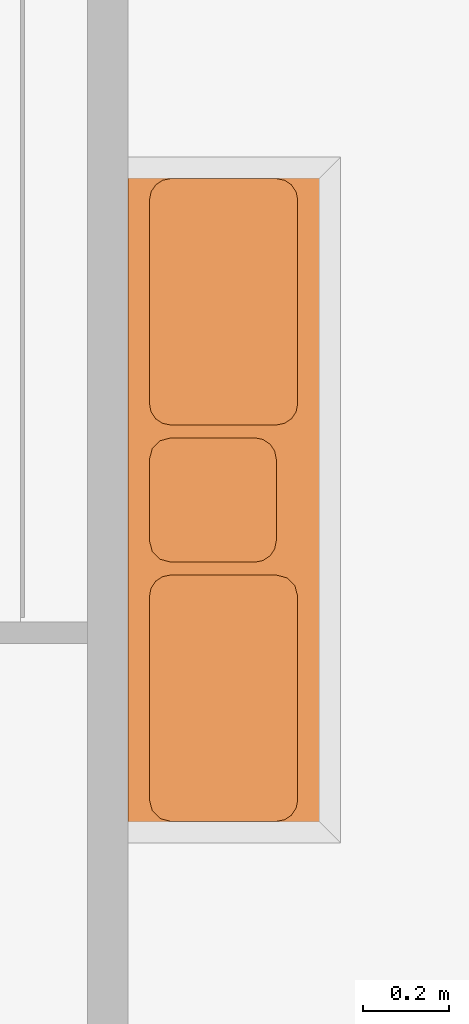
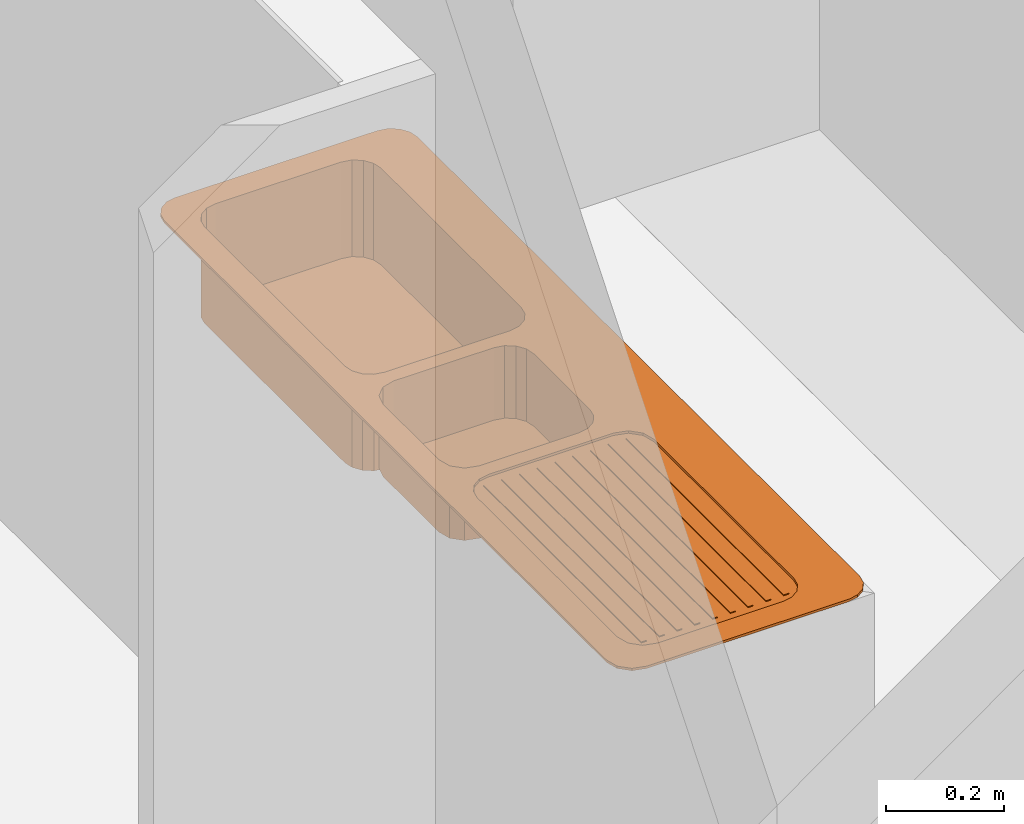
# One storey, part 14 of 14: 1 proxy.
"""IFC2X3 building model written with IfcOpenShell, lengths in millimetres."""

from ifc_helpers import new_model, entity, si_unit, converted_unit, direction, frame, origin_with_axes, place, context, project, spatial, open_shell, faceted_brep, surface_model, material, element, save


model = new_model("IFC2X3")

# Units and contexts
model_context = context("Model", 3, precision=1e-05, world=origin_with_axes(), true_north=direction((0.0, 1.0)))
ifc_project = project(units=[si_unit("LENGTHUNIT", "METRE", prefix="MILLI"), si_unit("AREAUNIT", "SQUARE_METRE"), si_unit("VOLUMEUNIT", "CUBIC_METRE"), converted_unit("PLANEANGLEUNIT", "DEGREE", entity("IfcPlaneAngleMeasure", 0.017453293), si_unit("PLANEANGLEUNIT", "RADIAN"), dimensions=[0, 0, 0, 0, 0, 0, 0]), si_unit("SOLIDANGLEUNIT", "STERADIAN"), si_unit("MASSUNIT", "GRAM"), si_unit("TIMEUNIT", "SECOND"), si_unit("THERMODYNAMICTEMPERATUREUNIT", "DEGREE_CELSIUS"), si_unit("LUMINOUSINTENSITYUNIT", "LUMEN")], contexts=[model_context])

# Site, building, storey
site_placement = place(None, origin_with_axes())
site = spatial("IfcSite", under=ifc_project, at=site_placement, Name="\x83T\x83C\x83g", CompositionType="ELEMENT")
building_placement = place(site_placement, origin_with_axes())
building = spatial("IfcBuilding", under=site, at=building_placement, Name="Daitec-Sample 201208", CompositionType="ELEMENT")
storey_placement = place(building_placement, frame((0.0, 0.0, 4000.0), z_axis=(0.0, 0.0, 1.0), x_axis=(1.0, 0.0, 0.0)))
storey = spatial("IfcBuildingStorey", under=building, at=storey_placement, Name="2F", CompositionType="ELEMENT", Elevation=4000.0)

# Proxy
ifc_material = material(Name="\x94w\x8ci")
proxy_placement = place(storey_placement, frame((23171.218, 22624.447, 0.0), z_axis=(0.0, 0.0, 1.0), x_axis=(0.0, -1.0, 0.0)))
element("IfcBuildingElementProxy", 1, at=proxy_placement, inside=storey, material=ifc_material, Name="O5", context=model_context, shape_type="SurfaceModel", body=[
    faceted_brep([(50.0, 0.0, 600.0), (1550.0, 0.0, 600.0), (1550.0, 0.0, 605.0), (50.0, 0.0, 605.0), (30.865828, 3.8060234, 600.0), (14.644661, 14.644661, 600.0), (3.8060234, 30.865828, 600.0), (0.0, 50.0, 600.0), (0.0, 446.05787, 600.0), (3.8060234, 465.19204, 600.0), (14.644661, 481.41321, 600.0), (30.865828, 492.25185, 600.0), (50.0, 496.05787, 600.0), (1550.0, 496.05787, 600.0), (1569.1342, 492.25185, 600.0), (1585.3553, 481.41321, 600.0), (1596.194, 465.19204, 600.0), (1600.0, 446.05787, 600.0), (1600.0, 50.0, 600.0), (1593.3013, 25.0, 600.0), (1575.0, 6.6987298, 600.0), (100.0, 50.0, 600.0), (575.0, 50.0, 600.0), (594.13417, 53.806023, 600.0), (610.35534, 64.644661, 600.0), (621.19398, 80.865828, 600.0), (625.0, 100.0, 600.0), (625.0, 346.05787, 600.0), (621.19398, 365.19204, 600.0), (610.35534, 381.41321, 600.0), (594.13417, 392.25185, 600.0), (575.0, 396.05787, 600.0), (100.0, 396.05787, 600.0), (80.865828, 392.25185, 600.0), (64.644661, 381.41321, 600.0), (53.806023, 365.19204, 600.0), (50.0, 346.05787, 600.0), (50.0, 100.0, 600.0), (53.806023, 80.865828, 600.0), (64.644661, 64.644661, 600.0), (80.865828, 53.806023, 600.0), (705.0, 50.0, 600.0), (895.0, 50.0, 600.0), (920.0, 56.69873, 600.0), (938.30127, 75.0, 600.0), (945.0, 100.0, 600.0), (945.0, 296.05787, 600.0), (941.19398, 315.19204, 600.0), (930.35534, 331.41321, 600.0), (914.13417, 342.25185, 600.0), (895.0, 346.05787, 600.0), (705.0, 346.05787, 600.0), (685.86583, 342.25185, 600.0), (669.64466, 331.41321, 600.0), (658.80602, 315.19204, 600.0), (655.0, 296.05787, 600.0), (655.0, 100.0, 600.0), (661.69873, 75.0, 600.0), (680.0, 56.69873, 600.0), (1025.0, 50.0, 600.0), (1500.0, 50.0, 600.0), (1525.0, 56.69873, 600.0), (1543.3013, 75.0, 600.0), (1550.0, 100.0, 600.0), (1550.0, 346.05787, 600.0), (1546.194, 365.19204, 600.0), (1535.3553, 381.41321, 600.0), (1519.1342, 392.25185, 600.0), (1500.0, 396.05787, 600.0), (1025.0, 396.05787, 600.0), (1000.0, 389.35914, 600.0), (981.69873, 371.05787, 600.0), (975.0, 346.05787, 600.0), (975.0, 100.0, 600.0), (978.80602, 80.865828, 600.0), (989.64466, 64.644661, 600.0), (1005.8658, 53.806023, 600.0), (1575.0, 6.6987298, 605.0), (1593.3013, 25.0, 605.0), (1600.0, 50.0, 605.0), (1600.0, 446.05787, 605.0), (1596.194, 465.19204, 605.0), (1585.3553, 481.41321, 605.0), (1569.1342, 492.25185, 605.0), (1550.0, 496.05787, 605.0), (50.0, 496.05787, 605.0), (30.865828, 492.25185, 605.0), (14.644661, 481.41321, 605.0), (3.8060234, 465.19204, 605.0), (0.0, 446.05787, 605.0), (0.0, 50.0, 605.0), (3.8060234, 30.865828, 605.0), (14.644661, 14.644661, 605.0), (30.865828, 3.8060234, 605.0), (100.0, 50.0, 605.0), (80.865828, 53.806023, 605.0), (64.644661, 64.644661, 605.0), (53.806023, 80.865828, 605.0), (50.0, 100.0, 605.0), (50.0, 346.05787, 605.0), (53.806023, 365.19204, 605.0), (64.644661, 381.41321, 605.0), (80.865828, 392.25185, 605.0), (100.0, 396.05787, 605.0), (575.0, 396.05787, 605.0), (594.13417, 392.25185, 605.0), (610.35534, 381.41321, 605.0), (621.19398, 365.19204, 605.0), (625.0, 346.05787, 605.0), (625.0, 100.0, 605.0), (621.19398, 80.865828, 605.0), (610.35534, 64.644661, 605.0), (594.13417, 53.806023, 605.0), (575.0, 50.0, 605.0), (705.0, 50.0, 605.0), (680.0, 56.69873, 605.0), (661.69873, 75.0, 605.0), (655.0, 100.0, 605.0), (655.0, 296.05787, 605.0), (658.80602, 315.19204, 605.0), (669.64466, 331.41321, 605.0), (685.86583, 342.25185, 605.0), (705.0, 346.05787, 605.0), (895.0, 346.05787, 605.0), (914.13417, 342.25185, 605.0), (930.35534, 331.41321, 605.0), (941.19398, 315.19204, 605.0), (945.0, 296.05787, 605.0), (945.0, 100.0, 605.0), (938.30127, 75.0, 605.0), (920.0, 56.69873, 605.0), (895.0, 50.0, 605.0), (1025.0, 50.0, 605.0), (1005.8658, 53.806023, 605.0), (989.64466, 64.644661, 605.0), (978.80602, 80.865828, 605.0), (975.0, 100.0, 605.0), (975.0, 346.05787, 605.0), (981.69873, 371.05787, 605.0), (1000.0, 389.35914, 605.0), (1025.0, 396.05787, 605.0), (1500.0, 396.05787, 605.0), (1519.1342, 392.25185, 605.0), (1535.3553, 381.41321, 605.0), (1546.194, 365.19204, 605.0), (1550.0, 346.05787, 605.0), (1550.0, 100.0, 605.0), (1543.3013, 75.0, 605.0), (1525.0, 56.69873, 605.0), (1500.0, 50.0, 605.0)], [[[0, 1, 2, 3]], [[0, 4, 5, 6, 7, 8, 9, 10, 11, 12, 13, 14, 15, 16, 17, 18, 19, 20, 1], [21, 22, 23, 24, 25, 26, 27, 28, 29, 30, 31, 32, 33, 34, 35, 36, 37, 38, 39, 40], [41, 42, 43, 44, 45, 46, 47, 48, 49, 50, 51, 52, 53, 54, 55, 56, 57, 58], [59, 60, 61, 62, 63, 64, 65, 66, 67, 68, 69, 70, 71, 72, 73, 74, 75, 76]], [[1, 20, 77, 2]], [[3, 2, 77, 78, 79, 80, 81, 82, 83, 84, 85, 86, 87, 88, 89, 90, 91, 92, 93], [94, 95, 96, 97, 98, 99, 100, 101, 102, 103, 104, 105, 106, 107, 108, 109, 110, 111, 112, 113], [114, 115, 116, 117, 118, 119, 120, 121, 122, 123, 124, 125, 126, 127, 128, 129, 130, 131], [132, 133, 134, 135, 136, 137, 138, 139, 140, 141, 142, 143, 144, 145, 146, 147, 148, 149]], [[4, 0, 3, 93]], [[5, 4, 93, 92]], [[6, 5, 92, 91]], [[7, 6, 91, 90]], [[8, 7, 90, 89]], [[9, 8, 89, 88]], [[10, 9, 88, 87]], [[11, 10, 87, 86]], [[12, 11, 86, 85]], [[13, 12, 85, 84]], [[14, 13, 84, 83]], [[15, 14, 83, 82]], [[16, 15, 82, 81]], [[17, 16, 81, 80]], [[18, 17, 80, 79]], [[19, 18, 79, 78]], [[20, 19, 78, 77]], [[22, 21, 94, 113]], [[23, 22, 113, 112]], [[24, 23, 112, 111]], [[25, 24, 111, 110]], [[26, 25, 110, 109]], [[27, 26, 109, 108]], [[28, 27, 108, 107]], [[29, 28, 107, 106]], [[30, 29, 106, 105]], [[31, 30, 105, 104]], [[32, 31, 104, 103]], [[33, 32, 103, 102]], [[34, 33, 102, 101]], [[35, 34, 101, 100]], [[36, 35, 100, 99]], [[37, 36, 99, 98]], [[38, 37, 98, 97]], [[39, 38, 97, 96]], [[40, 39, 96, 95]], [[21, 40, 95, 94]], [[42, 41, 114, 131]], [[43, 42, 131, 130]], [[44, 43, 130, 129]], [[45, 44, 129, 128]], [[46, 45, 128, 127]], [[47, 46, 127, 126]], [[48, 47, 126, 125]], [[49, 48, 125, 124]], [[50, 49, 124, 123]], [[51, 50, 123, 122]], [[52, 51, 122, 121]], [[53, 52, 121, 120]], [[54, 53, 120, 119]], [[55, 54, 119, 118]], [[56, 55, 118, 117]], [[57, 56, 117, 116]], [[58, 57, 116, 115]], [[41, 58, 115, 114]], [[60, 59, 132, 149]], [[61, 60, 149, 148]], [[62, 61, 148, 147]], [[63, 62, 147, 146]], [[64, 63, 146, 145]], [[65, 64, 145, 144]], [[66, 65, 144, 143]], [[67, 66, 143, 142]], [[68, 67, 142, 141]], [[69, 68, 141, 140]], [[70, 69, 140, 139]], [[71, 70, 139, 138]], [[72, 71, 138, 137]], [[73, 72, 137, 136]], [[74, 73, 136, 135]], [[75, 74, 135, 134]], [[76, 75, 134, 133]], [[59, 76, 133, 132]]]),
    faceted_brep([(1025.0, 50.0, 595.0), (1500.0, 50.0, 595.0), (1500.0, 50.0, 600.0), (1025.0, 50.0, 600.0), (1005.8658, 53.806023, 595.0), (989.64466, 64.644661, 595.0), (978.80602, 80.865828, 595.0), (975.0, 100.0, 595.0), (975.0, 346.05787, 595.0), (981.69873, 371.05787, 595.0), (1000.0, 389.35914, 595.0), (1025.0, 396.05787, 595.0), (1500.0, 396.05787, 595.0), (1519.1342, 392.25185, 595.0), (1535.3553, 381.41321, 595.0), (1546.194, 365.19204, 595.0), (1550.0, 346.05787, 595.0), (1550.0, 100.0, 595.0), (1543.3013, 75.0, 595.0), (1525.0, 56.69873, 595.0), (1525.0, 56.69873, 600.0), (1543.3013, 75.0, 600.0), (1550.0, 100.0, 600.0), (1550.0, 346.05787, 600.0), (1546.194, 365.19204, 600.0), (1535.3553, 381.41321, 600.0), (1519.1342, 392.25185, 600.0), (1500.0, 396.05787, 600.0), (1025.0, 396.05787, 600.0), (1000.0, 389.35914, 600.0), (981.69873, 371.05787, 600.0), (975.0, 346.05787, 600.0), (975.0, 100.0, 600.0), (978.80602, 80.865828, 600.0), (989.64466, 64.644661, 600.0), (1005.8658, 53.806023, 600.0)], [[[0, 1, 2, 3]], [[0, 4, 5, 6, 7, 8, 9, 10, 11, 12, 13, 14, 15, 16, 17, 18, 19, 1]], [[1, 19, 20, 2]], [[3, 2, 20, 21, 22, 23, 24, 25, 26, 27, 28, 29, 30, 31, 32, 33, 34, 35]], [[4, 0, 3, 35]], [[5, 4, 35, 34]], [[6, 5, 34, 33]], [[7, 6, 33, 32]], [[8, 7, 32, 31]], [[9, 8, 31, 30]], [[10, 9, 30, 29]], [[11, 10, 29, 28]], [[12, 11, 28, 27]], [[13, 12, 27, 26]], [[14, 13, 26, 25]], [[15, 14, 25, 24]], [[16, 15, 24, 23]], [[17, 16, 23, 22]], [[18, 17, 22, 21]], [[19, 18, 21, 20]]]),
    faceted_brep([(995.0, 80.0, 600.0), (1530.0, 80.0, 600.0), (1530.0, 80.0, 602.0), (995.0, 80.0, 602.0), (995.0, 90.0, 600.0), (1530.0, 90.0, 600.0), (1530.0, 90.0, 602.0), (995.0, 90.0, 602.0)], [[[0, 1, 2, 3]], [[0, 4, 5, 1]], [[1, 5, 6, 2]], [[3, 2, 6, 7]], [[4, 0, 3, 7]], [[5, 4, 7, 6]]]),
    faceted_brep([(995.0, 114.83034, 600.0), (1530.0, 114.83034, 600.0), (1530.0, 114.83034, 602.0), (995.0, 114.83034, 602.0), (995.0, 124.83034, 600.0), (1530.0, 124.83034, 600.0), (1530.0, 124.83034, 602.0), (995.0, 124.83034, 602.0)], [[[0, 1, 2, 3]], [[0, 4, 5, 1]], [[1, 5, 6, 2]], [[3, 2, 6, 7]], [[4, 0, 3, 7]], [[5, 4, 7, 6]]]),
    faceted_brep([(995.0, 149.66068, 600.0), (1530.0, 149.66068, 600.0), (1530.0, 149.66068, 602.0), (995.0, 149.66068, 602.0), (995.0, 159.66068, 600.0), (1530.0, 159.66068, 600.0), (1530.0, 159.66068, 602.0), (995.0, 159.66068, 602.0)], [[[0, 1, 2, 3]], [[0, 4, 5, 1]], [[1, 5, 6, 2]], [[3, 2, 6, 7]], [[4, 0, 3, 7]], [[5, 4, 7, 6]]]),
    faceted_brep([(995.0, 184.49101, 600.0), (1530.0, 184.49101, 600.0), (1530.0, 184.49101, 602.0), (995.0, 184.49101, 602.0), (995.0, 194.49101, 600.0), (1530.0, 194.49101, 600.0), (1530.0, 194.49101, 602.0), (995.0, 194.49101, 602.0)], [[[0, 1, 2, 3]], [[0, 4, 5, 1]], [[1, 5, 6, 2]], [[3, 2, 6, 7]], [[4, 0, 3, 7]], [[5, 4, 7, 6]]]),
    faceted_brep([(995.0, 219.32135, 600.0), (1530.0, 219.32135, 600.0), (1530.0, 219.32135, 602.0), (995.0, 219.32135, 602.0), (995.0, 229.32135, 600.0), (1530.0, 229.32135, 600.0), (1530.0, 229.32135, 602.0), (995.0, 229.32135, 602.0)], [[[0, 1, 2, 3]], [[0, 4, 5, 1]], [[1, 5, 6, 2]], [[3, 2, 6, 7]], [[4, 0, 3, 7]], [[5, 4, 7, 6]]]),
    faceted_brep([(995.0, 254.15169, 600.0), (1530.0, 254.15169, 600.0), (1530.0, 254.15169, 602.0), (995.0, 254.15169, 602.0), (995.0, 264.15169, 600.0), (1530.0, 264.15169, 600.0), (1530.0, 264.15169, 602.0), (995.0, 264.15169, 602.0)], [[[0, 1, 2, 3]], [[0, 4, 5, 1]], [[1, 5, 6, 2]], [[3, 2, 6, 7]], [[4, 0, 3, 7]], [[5, 4, 7, 6]]]),
    faceted_brep([(995.0, 288.98203, 600.0), (1530.0, 288.98203, 600.0), (1530.0, 288.98203, 602.0), (995.0, 288.98203, 602.0), (995.0, 298.98203, 600.0), (1530.0, 298.98203, 600.0), (1530.0, 298.98203, 602.0), (995.0, 298.98203, 602.0)], [[[0, 1, 2, 3]], [[0, 4, 5, 1]], [[1, 5, 6, 2]], [[3, 2, 6, 7]], [[4, 0, 3, 7]], [[5, 4, 7, 6]]]),
    faceted_brep([(995.0, 323.81237, 600.0), (1530.0, 323.81237, 600.0), (1530.0, 323.81237, 602.0), (995.0, 323.81237, 602.0), (995.0, 333.81237, 600.0), (1530.0, 333.81237, 600.0), (1530.0, 333.81237, 602.0), (995.0, 333.81237, 602.0)], [[[0, 1, 2, 3]], [[0, 4, 5, 1]], [[1, 5, 6, 2]], [[3, 2, 6, 7]], [[4, 0, 3, 7]], [[5, 4, 7, 6]]]),
    faceted_brep([(995.0, 358.6427, 600.0), (1530.0, 358.6427, 600.0), (1530.0, 358.6427, 602.0), (995.0, 358.6427, 602.0), (995.0, 368.6427, 600.0), (1530.0, 368.6427, 600.0), (1530.0, 368.6427, 602.0), (995.0, 368.6427, 602.0)], [[[0, 1, 2, 3]], [[0, 4, 5, 1]], [[1, 5, 6, 2]], [[3, 2, 6, 7]], [[4, 0, 3, 7]], [[5, 4, 7, 6]]]),
    surface_model("IfcShellBasedSurfaceModel", [(100.0, 50.0, 405.0), (575.0, 50.0, 405.0), (575.0, 50.0, 600.0), (100.0, 50.0, 600.0), (80.865828, 53.806023, 405.0), (64.644661, 64.644661, 405.0), (53.806023, 80.865828, 405.0), (50.0, 100.0, 405.0), (50.0, 346.05787, 405.0), (53.806023, 365.19204, 405.0), (64.644661, 381.41321, 405.0), (80.865828, 392.25185, 405.0), (100.0, 396.05787, 405.0), (575.0, 396.05787, 405.0), (594.13417, 392.25185, 405.0), (610.35534, 381.41321, 405.0), (621.19398, 365.19204, 405.0), (625.0, 346.05787, 405.0), (625.0, 100.0, 405.0), (621.19398, 80.865828, 405.0), (610.35534, 64.644661, 405.0), (594.13417, 53.806023, 405.0), (594.13417, 53.806023, 600.0), (80.865828, 53.806023, 600.0), (64.644661, 64.644661, 600.0), (53.806023, 80.865828, 600.0), (50.0, 100.0, 600.0), (50.0, 346.05787, 600.0), (53.806023, 365.19204, 600.0), (64.644661, 381.41321, 600.0), (80.865828, 392.25185, 600.0), (100.0, 396.05787, 600.0), (575.0, 396.05787, 600.0), (594.13417, 392.25185, 600.0), (610.35534, 381.41321, 600.0), (621.19398, 365.19204, 600.0), (625.0, 346.05787, 600.0), (625.0, 100.0, 600.0), (621.19398, 80.865828, 600.0), (610.35534, 64.644661, 600.0)], [open_shell([[[0, 1, 2, 3]], [[0, 4, 5, 6, 7, 8, 9, 10, 11, 12, 13, 14, 15, 16, 17, 18, 19, 20, 21, 1]], [[1, 21, 22, 2]], [[4, 0, 3, 23]], [[5, 4, 23, 24]], [[6, 5, 24, 25]], [[7, 6, 25, 26]], [[8, 7, 26, 27]], [[9, 8, 27, 28]], [[10, 9, 28, 29]], [[11, 10, 29, 30]], [[12, 11, 30, 31]], [[13, 12, 31, 32]], [[14, 13, 32, 33]], [[15, 14, 33, 34]], [[16, 15, 34, 35]], [[17, 16, 35, 36]], [[18, 17, 36, 37]], [[19, 18, 37, 38]], [[20, 19, 38, 39]], [[21, 20, 39, 22]]])]),
    surface_model("IfcShellBasedSurfaceModel", [(705.0, 50.0, 455.0), (895.0, 50.0, 455.0), (895.0, 50.0, 600.0), (705.0, 50.0, 600.0), (680.0, 56.69873, 455.0), (661.69873, 75.0, 455.0), (655.0, 100.0, 455.0), (655.0, 296.05787, 455.0), (658.80602, 315.19204, 455.0), (669.64466, 331.41321, 455.0), (685.86583, 342.25185, 455.0), (705.0, 346.05787, 455.0), (895.0, 346.05787, 455.0), (914.13417, 342.25185, 455.0), (930.35534, 331.41321, 455.0), (941.19398, 315.19204, 455.0), (945.0, 296.05787, 455.0), (945.0, 100.0, 455.0), (938.30127, 75.0, 455.0), (920.0, 56.69873, 455.0), (920.0, 56.69873, 600.0), (680.0, 56.69873, 600.0), (661.69873, 75.0, 600.0), (655.0, 100.0, 600.0), (655.0, 296.05787, 600.0), (658.80602, 315.19204, 600.0), (669.64466, 331.41321, 600.0), (685.86583, 342.25185, 600.0), (705.0, 346.05787, 600.0), (895.0, 346.05787, 600.0), (914.13417, 342.25185, 600.0), (930.35534, 331.41321, 600.0), (941.19398, 315.19204, 600.0), (945.0, 296.05787, 600.0), (945.0, 100.0, 600.0), (938.30127, 75.0, 600.0)], [open_shell([[[0, 1, 2, 3]], [[0, 4, 5, 6, 7, 8, 9, 10, 11, 12, 13, 14, 15, 16, 17, 18, 19, 1]], [[1, 19, 20, 2]], [[4, 0, 3, 21]], [[5, 4, 21, 22]], [[6, 5, 22, 23]], [[7, 6, 23, 24]], [[8, 7, 24, 25]], [[9, 8, 25, 26]], [[10, 9, 26, 27]], [[11, 10, 27, 28]], [[12, 11, 28, 29]], [[13, 12, 29, 30]], [[14, 13, 30, 31]], [[15, 14, 31, 32]], [[16, 15, 32, 33]], [[17, 16, 33, 34]], [[18, 17, 34, 35]], [[19, 18, 35, 20]]])]),
])

save(model, "model.ifc")
